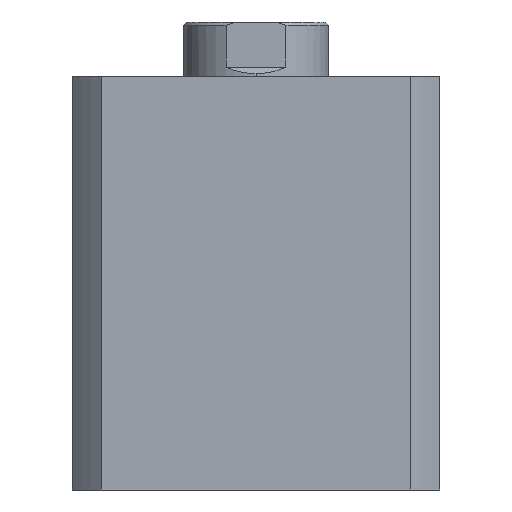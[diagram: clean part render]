
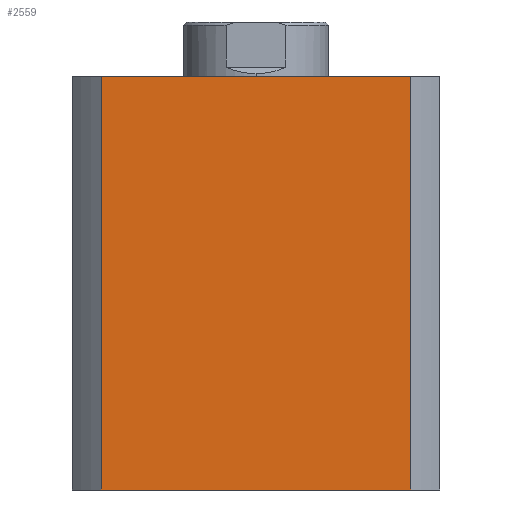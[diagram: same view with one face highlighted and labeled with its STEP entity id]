
A CAD part, left-side view. The second image highlights one B-rep face of the part: STEP entity #2559.
In plain terms, the highlighted planar face has unit normal (-1, 0, 0).
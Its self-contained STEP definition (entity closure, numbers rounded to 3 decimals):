
#121 = CARTESIAN_POINT ( 'NONE',  ( -57., 0., 0. ) ) ;
#137 = DIRECTION ( 'NONE',  ( 0., -1., 0. ) ) ;
#376 = DIRECTION ( 'NONE',  ( 0., -1., 0. ) ) ;
#378 = CARTESIAN_POINT ( 'NONE',  ( -57., 0., 128. ) ) ;
#384 = DIRECTION ( 'NONE',  ( 0., 0., -1. ) ) ;
#385 = CARTESIAN_POINT ( 'NONE',  ( -57., 47.971, 128. ) ) ;
#392 = DIRECTION ( 'NONE',  ( 0., 0., -1. ) ) ;
#393 = CARTESIAN_POINT ( 'NONE',  ( -57., -47.971, 128. ) ) ;
#983 = EDGE_CURVE ( 'NONE', #2235, #2280, #2447, .T. ) ;
#1025 = EDGE_CURVE ( 'NONE', #2272, #2235, #2505, .T. ) ;
#1027 = EDGE_CURVE ( 'NONE', #1641, #2280, #2509, .T. ) ;
#1028 = EDGE_CURVE ( 'NONE', #2272, #1641, #2510, .T. ) ;
#1388 = EDGE_LOOP ( 'NONE', ( #1500, #1499, #1498, #1497 ) ) ;
#1497 = ORIENTED_EDGE ( 'NONE', *, *, #1025, .T. ) ;
#1498 = ORIENTED_EDGE ( 'NONE', *, *, #1028, .F. ) ;
#1499 = ORIENTED_EDGE ( 'NONE', *, *, #1027, .F. ) ;
#1500 = ORIENTED_EDGE ( 'NONE', *, *, #983, .T. ) ;
#1641 = VERTEX_POINT ( 'NONE', #1857 ) ;
#1770 = DIRECTION ( 'NONE',  ( 0., 0., -1. ) ) ;
#1771 = DIRECTION ( 'NONE',  ( 1., 0., 0. ) ) ;
#1774 = PLANE ( 'NONE',  #2798 ) ;
#1777 = CARTESIAN_POINT ( 'NONE',  ( -57., 0., 128. ) ) ;
#1857 = CARTESIAN_POINT ( 'NONE',  ( -57., -47.971, 128. ) ) ;
#2063 = CARTESIAN_POINT ( 'NONE',  ( -57., -47.971, 0. ) ) ;
#2074 = CARTESIAN_POINT ( 'NONE',  ( -57., 47.971, 128. ) ) ;
#2118 = CARTESIAN_POINT ( 'NONE',  ( -57., 47.971, 0. ) ) ;
#2235 = VERTEX_POINT ( 'NONE', #2118 ) ;
#2272 = VERTEX_POINT ( 'NONE', #2074 ) ;
#2280 = VERTEX_POINT ( 'NONE', #2063 ) ;
#2447 = LINE ( 'NONE', #121, #2451 ) ;
#2451 = VECTOR ( 'NONE', #137, 1000. ) ;
#2505 = LINE ( 'NONE', #385, #2508 ) ;
#2508 = VECTOR ( 'NONE', #384, 1000. ) ;
#2509 = LINE ( 'NONE', #393, #2511 ) ;
#2510 = LINE ( 'NONE', #378, #2513 ) ;
#2511 = VECTOR ( 'NONE', #392, 1000. ) ;
#2513 = VECTOR ( 'NONE', #376, 1000. ) ;
#2559 = ADVANCED_FACE ( 'NONE', ( #2965 ), #1774, .F. ) ;
#2798 = AXIS2_PLACEMENT_3D ( 'NONE', #1777, #1771, #1770 ) ;
#2965 = FACE_OUTER_BOUND ( 'NONE', #1388, .T. ) ;
